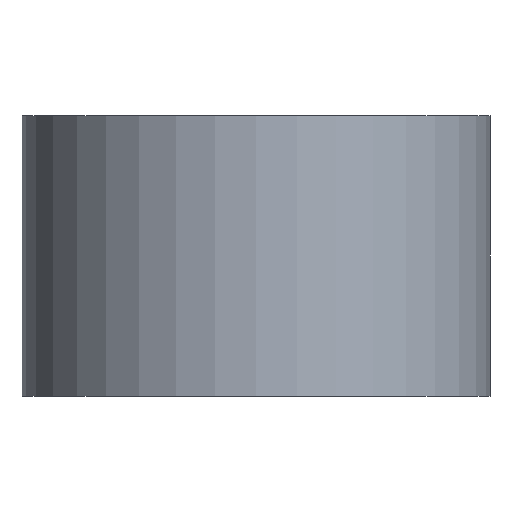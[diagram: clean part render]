
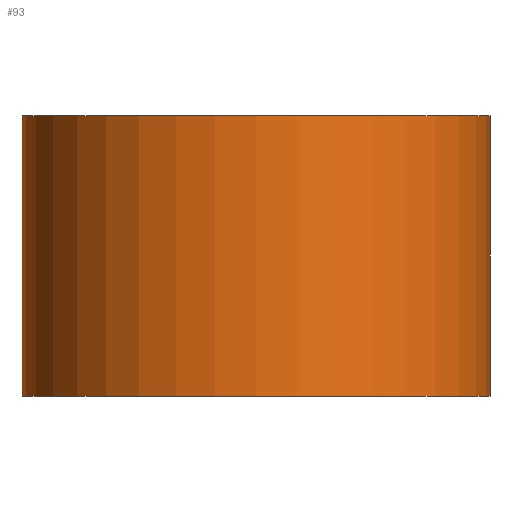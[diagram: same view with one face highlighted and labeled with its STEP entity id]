
A CAD part, front view. The second image highlights one B-rep face of the part: STEP entity #93.
In plain terms, the highlighted cylindrical face has radius 22.5 mm (diameter 45 mm), a partial arc.
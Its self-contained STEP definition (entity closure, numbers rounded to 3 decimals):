
#1 = DIRECTION ( 'NONE',  ( 1., 0., 0. ) ) ;
#3 = VECTOR ( 'NONE', #29, 1000. ) ;
#15 = VERTEX_POINT ( 'NONE', #109 ) ;
#17 = VERTEX_POINT ( 'NONE', #108 ) ;
#19 = EDGE_CURVE ( 'NONE', #206, #15, #133, .T. ) ;
#29 = DIRECTION ( 'NONE',  ( 0., 0., -1. ) ) ;
#33 = FACE_OUTER_BOUND ( 'NONE', #148, .T. ) ;
#35 = LINE ( 'NONE', #183, #77 ) ;
#37 = DIRECTION ( 'NONE',  ( 0., 0., -1. ) ) ;
#50 = LINE ( 'NONE', #129, #3 ) ;
#62 = AXIS2_PLACEMENT_3D ( 'NONE', #111, #112, #172 ) ;
#63 = CARTESIAN_POINT ( 'NONE',  ( -22.5, 0., 0. ) ) ;
#77 = VECTOR ( 'NONE', #37, 1000. ) ;
#79 = CARTESIAN_POINT ( 'NONE',  ( -22.5, 0., 27. ) ) ;
#84 = EDGE_CURVE ( 'NONE', #206, #145, #35, .T. ) ;
#88 = AXIS2_PLACEMENT_3D ( 'NONE', #134, #153, #1 ) ;
#93 = ADVANCED_FACE ( 'NONE', ( #33 ), #197, .T. ) ;
#108 = CARTESIAN_POINT ( 'NONE',  ( 22.5, 0., 0. ) ) ;
#109 = CARTESIAN_POINT ( 'NONE',  ( 22.5, 0., 27. ) ) ;
#111 = CARTESIAN_POINT ( 'NONE',  ( 0., 0., 0. ) ) ;
#112 = DIRECTION ( 'NONE',  ( 0., 0., 1. ) ) ;
#121 = CIRCLE ( 'NONE', #62, 22.5 ) ;
#125 = ORIENTED_EDGE ( 'NONE', *, *, #19, .F. ) ;
#129 = CARTESIAN_POINT ( 'NONE',  ( 22.5, 0., 27. ) ) ;
#132 = ORIENTED_EDGE ( 'NONE', *, *, #165, .F. ) ;
#133 = CIRCLE ( 'NONE', #88, 22.5 ) ;
#134 = CARTESIAN_POINT ( 'NONE',  ( 0., 0., 27. ) ) ;
#139 = DIRECTION ( 'NONE',  ( 0., 0., -1. ) ) ;
#145 = VERTEX_POINT ( 'NONE', #63 ) ;
#148 = EDGE_LOOP ( 'NONE', ( #132, #125, #203, #196 ) ) ;
#153 = DIRECTION ( 'NONE',  ( 0., 0., 1. ) ) ;
#161 = EDGE_CURVE ( 'NONE', #145, #17, #121, .T. ) ;
#165 = EDGE_CURVE ( 'NONE', #15, #17, #50, .T. ) ;
#166 = DIRECTION ( 'NONE',  ( -1., 0., 0. ) ) ;
#170 = AXIS2_PLACEMENT_3D ( 'NONE', #182, #139, #166 ) ;
#172 = DIRECTION ( 'NONE',  ( 1., 0., 0. ) ) ;
#182 = CARTESIAN_POINT ( 'NONE',  ( 0., 0., 27. ) ) ;
#183 = CARTESIAN_POINT ( 'NONE',  ( -22.5, 0., 27. ) ) ;
#196 = ORIENTED_EDGE ( 'NONE', *, *, #161, .T. ) ;
#197 = CYLINDRICAL_SURFACE ( 'NONE', #170, 22.5 ) ;
#203 = ORIENTED_EDGE ( 'NONE', *, *, #84, .T. ) ;
#206 = VERTEX_POINT ( 'NONE', #79 ) ;
